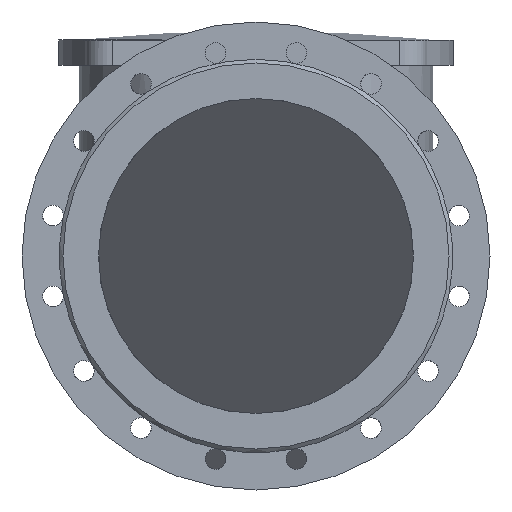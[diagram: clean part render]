
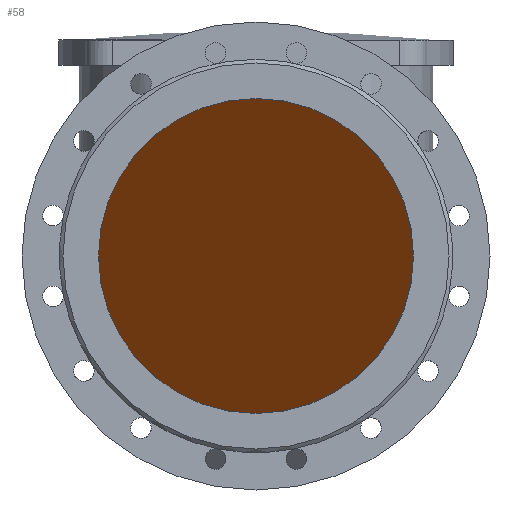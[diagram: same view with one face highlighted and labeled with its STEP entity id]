
A CAD part, front view. The second image highlights one B-rep face of the part: STEP entity #58.
In plain terms, the highlighted planar face has unit normal (0, -0.707, -0.707).
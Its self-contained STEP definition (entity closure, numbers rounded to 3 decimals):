
#58=ADVANCED_FACE('',(#806),#808,.T.);
#806=FACE_BOUND('',#807,.T.);
#807=EDGE_LOOP('',(#2809));
#808=PLANE('',#809);
#809=AXIS2_PLACEMENT_3D('',#810,#811,#812);
#810=CARTESIAN_POINT('',(-260.,-232.471,232.471));
#811=DIRECTION('',(0.,-0.707,-0.707));
#812=DIRECTION('',(0.,0.707,-0.707));
#2809=ORIENTED_EDGE('',*,*,#3254,.T.);
#3254=EDGE_CURVE('',#3473,#3473,#3474,.F.);
#3473=VERTEX_POINT('',#3848);
#3474=(BOUNDED_CURVE()B_SPLINE_CURVE(3,
(#3849,#3850,#3851,#3852,#3853,#3854,#3855),
.UNSPECIFIED.,.T.,.F.)B_SPLINE_CURVE_WITH_KNOTS((4,3,4),
(0.,0.5,1.),
.UNSPECIFIED.)CURVE()GEOMETRIC_REPRESENTATION_ITEM()RATIONAL_B_SPLINE_CURVE((1.,
0.333,0.333,1.,0.333,0.333,1.))
REPRESENTATION_ITEM(''));
#3848=CARTESIAN_POINT('',(0.,-175.,175.));
#3849=CARTESIAN_POINT('',(0.,-175.,175.));
#3850=CARTESIAN_POINT('',(350.,-175.,175.));
#3851=CARTESIAN_POINT('',(350.,175.,-175.));
#3852=CARTESIAN_POINT('',(0.,175.,-175.));
#3853=CARTESIAN_POINT('',(-350.,175.,-175.));
#3854=CARTESIAN_POINT('',(-350.,-175.,175.));
#3855=CARTESIAN_POINT('',(0.,-175.,175.));
